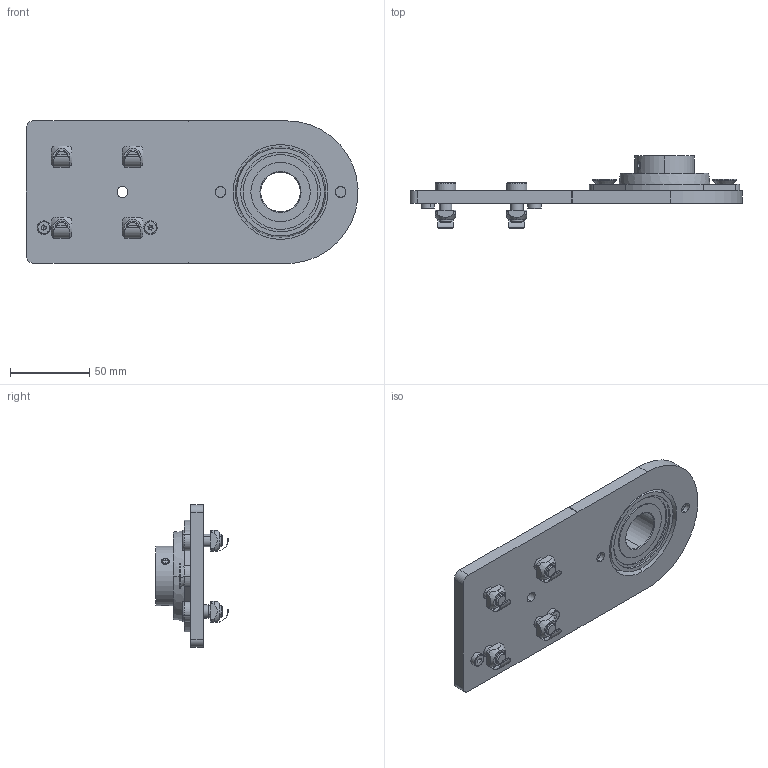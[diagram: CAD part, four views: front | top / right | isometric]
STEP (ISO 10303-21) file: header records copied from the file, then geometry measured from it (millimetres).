
FILE_DESCRIPTION (( 'STEP AP214' ), '1' );
FILE_NAME ('1.8057 Kuljetinhihnalaakeri 90 Teräs.STEP', '2025-09-18T07:52:26', ( '' ), ( '' ), 'SwSTEP 2.0', 'SolidWorks 2025', '' );
FILE_SCHEMA (( 'AUTOMOTIVE_DESIGN' ));
Length unit declared in the file: millimetre
Products named in the file (1): 1.8057 Kuljetinhihnalaakeri 90 Teräs
Bounding box: 210 x 45.65 x 90 mm (x, y, z)
Volume: 175858.7 mm3; surface area: 62629.7 mm2
Topology: 14 solids, 14 shells, 481 faces, 1127 edges, 686 vertices
Faces by surface type: plane 259, cylinder 102, cone 84, torus 36
Entity records: 19692 total; most frequent: CARTESIAN_POINT 3135, DIRECTION 2383, ORIENTED_EDGE 2222, EDGE_CURVE 1111, AXIS2_PLACEMENT_3D 874, VERTEX_POINT 686, VECTOR 635, LINE 635
